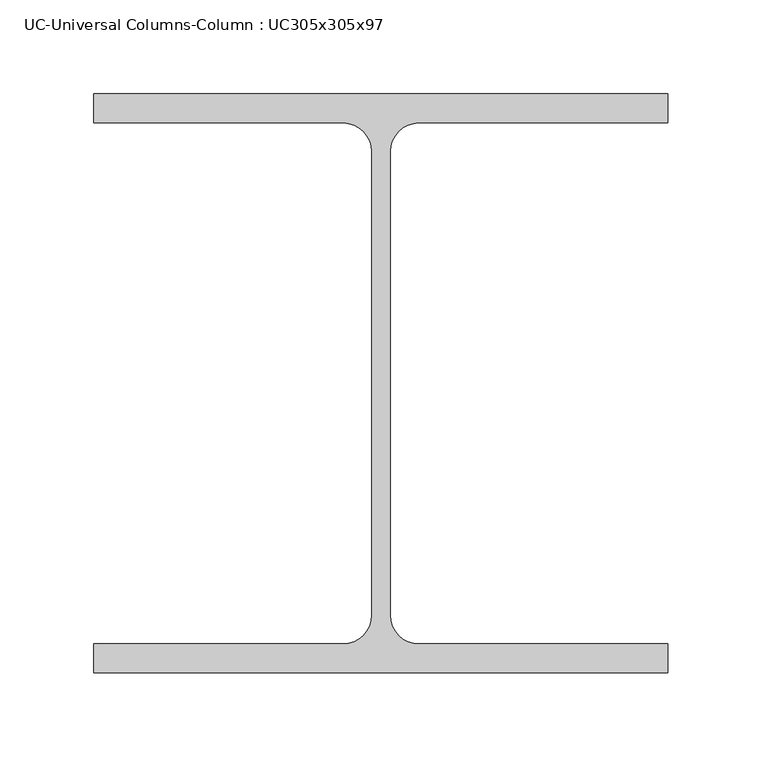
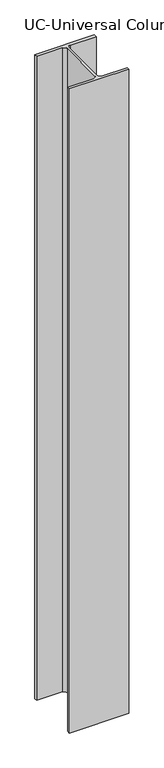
"""IFC4 building model written with IfcOpenShell, lengths in millimetres: column geometry, UC-Universal Columns-Column : UC305x305x97."""

import ifcopenshell
import ifcopenshell.guid

model = None  # the IFC model being written
_history = None  # IfcOwnerHistory: only IFC2X3 demands one
_inside = {}  # id of a spatial element -> (the spatial element, [elements in it])
_under = {}  # id of a project, library or spatial element -> (it, [spatial elements below it])
_declared = {}  # id of a project -> (the project, [libraries it declares])
_typed = {}  # id of a type object -> (the type object, [elements of that type])
_made_of = {}  # id of a material, layer set ... -> (it, [elements and type objects made of it])


def new_model(schema):
    """Start an empty IFC model of exactly this schema.

    Asked for "IFC4X3", IfcOpenShell would pick the latest addendum, in which some entities
    have other attributes; the version numbers below select the first issue.
    IFC2X3 requires an IfcOwnerHistory on every rooted entity: one is made here for all.
    """
    global model, _history
    if schema == "IFC4X3":
        model = ifcopenshell.file(schema_version=(4, 3, 0, 0))
    else:
        model = ifcopenshell.file(schema=schema)
    _inside.clear()
    _under.clear()
    _declared.clear()
    _typed.clear()
    _made_of.clear()
    _history = None
    if model.schema == "IFC2X3":
        org = make("IfcOrganization", Name="unknown")
        user = make(
            "IfcPersonAndOrganization",
            ThePerson=make("IfcPerson", FamilyName="unknown"),
            TheOrganization=org,
        )
        app = make(
            "IfcApplication",
            ApplicationDeveloper=org,
            Version="unknown",
            ApplicationFullName="unknown",
            ApplicationIdentifier="unknown",
        )
        _history = make(
            "IfcOwnerHistory",
            OwningUser=user,
            OwningApplication=app,
            ChangeAction="ADDED",
            CreationDate=0,
        )
    return model


def make(cls, **values):
    """One entity of the class cls with the attributes given. An attribute that is None is left unset."""
    return model.create_entity(
        cls, **{name: value for name, value in values.items() if value is not None}
    )


def rooted(cls, **values):
    """An entity with a GlobalId (a new one), such as an element, a storey or a relation."""
    return make(cls, GlobalId=ifcopenshell.guid.new(), OwnerHistory=_history, **values)


def si_unit(unit_type, name, prefix=None):
    """IfcSIUnit, for example si_unit("LENGTHUNIT", "METRE", prefix="MILLI")."""
    return make("IfcSIUnit", UnitType=unit_type, Prefix=prefix, Name=name)


def assignment(units):
    """IfcUnitAssignment: the units of a project."""
    return None if units is None else make("IfcUnitAssignment", Units=units)


def point(xyz):
    """IfcCartesianPoint."""
    return None if xyz is None else make("IfcCartesianPoint", Coordinates=xyz)


def direction(xyz):
    """IfcDirection."""
    return None if xyz is None else make("IfcDirection", DirectionRatios=xyz)


def frame(location, z_axis=None, x_axis=None):
    """IfcAxis2Placement3D, a coordinate frame: its origin and axes. An axis left out is left unset."""
    return make(
        "IfcAxis2Placement3D",
        Location=point(location),
        Axis=direction(z_axis),
        RefDirection=direction(x_axis),
    )


def frame_2d(location, x_axis=None):
    """IfcAxis2Placement2D, a coordinate frame in the plane: its origin and x axis."""
    return make(
        "IfcAxis2Placement2D", Location=point(location), RefDirection=direction(x_axis)
    )


def origin():
    """The frame at (0, 0, 0) with its axes left unset."""
    return frame((0.0, 0.0, 0.0))


def place(relative_to, where):
    """IfcLocalPlacement: puts the frame where relative to a parent placement (None: the world)."""
    return make(
        "IfcLocalPlacement", PlacementRelTo=relative_to, RelativePlacement=where
    )


def context(
    kind, dimensions, precision=None, world=None, true_north=None, identifier=None
):
    """IfcGeometricRepresentationContext, for example the 3D "Model" context."""
    return make(
        "IfcGeometricRepresentationContext",
        ContextIdentifier=identifier,
        ContextType=kind,
        CoordinateSpaceDimension=dimensions,
        Precision=precision,
        WorldCoordinateSystem=world,
        TrueNorth=true_north,
    )


def project(units=None, contexts=None):
    """IfcProject with its units and contexts."""
    return rooted(
        "IfcProject",
        Name="project",
        RepresentationContexts=contexts,
        UnitsInContext=assignment(units),
    )


def spatial(cls, under=None, at=None, **own):
    """A site, building, storey or space (cls), placed at a placement, below another one or the project."""
    s = rooted(cls, ObjectPlacement=at, **own)
    if under is not None:
        _under.setdefault(under.id(), (under, []))[1].append(s)
    return s


def polyline(points):
    """IfcPolyline through the points."""
    return make("IfcPolyline", Points=[point(p) for p in points])


def circle_curve(where, radius):
    """IfcCircle in the frame where."""
    return make("IfcCircle", Position=where, Radius=radius)


def trimmed(basis, trim1, trim2, sense, master):
    """IfcTrimmedCurve: the piece of a basis curve between two trims."""
    return make(
        "IfcTrimmedCurve",
        BasisCurve=basis,
        Trim1=trim1,
        Trim2=trim2,
        SenseAgreement=sense,
        MasterRepresentation=master,
    )


def segment(curve, same_sense, transition):
    """IfcCompositeCurveSegment."""
    return make(
        "IfcCompositeCurveSegment",
        Transition=transition,
        SameSense=same_sense,
        ParentCurve=curve,
    )


def composite_curve(segments, self_intersect=None):
    """IfcCompositeCurve: segments joined end to end."""
    return make("IfcCompositeCurve", Segments=segments, SelfIntersect=self_intersect)


def outline(outer, holes=None, kind="AREA"):
    """IfcArbitraryClosedProfileDef: a profile drawn as a closed curve; with holes, ...WithVoids."""
    if holes is None:
        return make("IfcArbitraryClosedProfileDef", ProfileType=kind, OuterCurve=outer)
    return make(
        "IfcArbitraryProfileDefWithVoids",
        ProfileType=kind,
        OuterCurve=outer,
        InnerCurves=holes,
    )


def extrude(swept, where, along, depth):
    """IfcExtrudedAreaSolid: the profile swept, set in the frame where, extruded along a direction by depth."""
    return make(
        "IfcExtrudedAreaSolid",
        SweptArea=swept,
        Position=where,
        ExtrudedDirection=direction(along),
        Depth=depth,
    )


def shape(context_of_items, identifier, shape_type, items):
    """IfcShapeRepresentation: the items that make up one representation, for example the "Body"."""
    return make(
        "IfcShapeRepresentation",
        ContextOfItems=context_of_items,
        RepresentationIdentifier=identifier,
        RepresentationType=shape_type,
        Items=items,
    )


def source(mapping_origin, context_of_items, identifier, shape_type, items):
    """IfcRepresentationMap: a shape defined once, which mapped items show again and again."""
    return make(
        "IfcRepresentationMap",
        MappingOrigin=mapping_origin,
        MappedRepresentation=shape(context_of_items, identifier, shape_type, items),
    )


def transform(
    local_origin,
    x_axis=None,
    y_axis=None,
    z_axis=None,
    scale=None,
    scale2=None,
    scale3=None,
    uniform=True,
):
    """IfcCartesianTransformationOperator3D, or its non-uniform kind. x_axis, y_axis, z_axis: its Axis1, 2, 3."""
    if uniform:
        return make(
            "IfcCartesianTransformationOperator3D",
            Axis1=direction(x_axis),
            Axis2=direction(y_axis),
            LocalOrigin=point(local_origin),
            Scale=scale,
            Axis3=direction(z_axis),
        )
    return make(
        "IfcCartesianTransformationOperator3DnonUniform",
        Axis1=direction(x_axis),
        Axis2=direction(y_axis),
        LocalOrigin=point(local_origin),
        Scale=scale,
        Axis3=direction(z_axis),
        Scale2=scale2,
        Scale3=scale3,
    )


def mapped(mapping_source, mapping_target):
    """IfcMappedItem: shows the shape of a source again, moved by a transform."""
    return make(
        "IfcMappedItem", MappingSource=mapping_source, MappingTarget=mapping_target
    )


def made_of(thing, what):
    """Note that an element or type object is made of a material, layer set ...; save() writes the relation."""
    if what is not None:
        _made_of.setdefault(what.id(), (what, []))[1].append(thing)
    return thing


def element(
    cls,
    number,
    at=None,
    inside=None,
    cuts=None,
    type_object=None,
    material=None,
    context=None,
    identifier="Body",
    shape_type=None,
    held_by="IfcProductDefinitionShape",
    body=None,
    shapes=None,
    **own,
):
    """One element of the class cls, such as IfcWall. Its Tag is "e" and its number.

    at: its placement. inside: the storey or other place that contains it. cuts: it is an
    opening in that element (IfcRelVoidsElement). A single representation is given by context,
    identifier, shape_type and body (its items); several are given by shapes. held_by: the class
    of the entity that holds the representations. save() writes the other relations.
    """
    e = rooted(cls, Tag="e%d" % number, ObjectPlacement=at, **own)
    if body is not None:
        shapes = [shape(context, identifier, shape_type, body)]
    if shapes is not None:
        e.Representation = make(held_by, Representations=shapes)
    if inside is not None:
        _inside.setdefault(inside.id(), (inside, []))[1].append(e)
    if cuts is not None:
        rooted(
            "IfcRelVoidsElement", RelatingBuildingElement=cuts, RelatedOpeningElement=e
        )
    if type_object is not None:
        _typed.setdefault(type_object.id(), (type_object, []))[1].append(e)
    return made_of(e, material)


def aggregate(whole, parts):
    """IfcRelAggregates: a whole, such as a stair, and the parts it consists of."""
    return rooted("IfcRelAggregates", RelatingObject=whole, RelatedObjects=parts)


def save(model, path):
    """Write the relations noted so far, then the file.

    IfcRelAggregates (storeys below a building ...), IfcRelContainedInSpatialStructure (elements
    in a storey), IfcRelDefinesByType, IfcRelAssociatesMaterial and IfcRelDeclares: one each for
    every whole, place, type object, material and project.
    """
    for whole, parts in _under.values():
        aggregate(whole, parts)
    for where, things in _inside.values():
        rooted(
            "IfcRelContainedInSpatialStructure",
            RelatedElements=things,
            RelatingStructure=where,
        )
    for kind, things in _typed.values():
        rooted("IfcRelDefinesByType", RelatedObjects=things, RelatingType=kind)
    for what, things in _made_of.values():
        rooted("IfcRelAssociatesMaterial", RelatedObjects=things, RelatingMaterial=what)
    for by, libraries in _declared.values():
        rooted("IfcRelDeclares", RelatingContext=by, RelatedDefinitions=libraries)
    model.write(path)


def uc_universal_columns_column_uc305x305x97_0b574c11(model_context):
    return source(origin(), model_context, "Body", "SweptSolid", [
        extrude(outline(composite_curve([segment(polyline([(152.65, 153.95), (152.65, 138.55), (20.15, 138.55)]), True, "CONTINUOUS"), segment(trimmed(circle_curve(frame_2d((20.15, 123.35)), 15.2), [point((20.15, 138.55))], [point((4.95, 123.35))], True, "CARTESIAN"), True, "CONTINUOUS"), segment(polyline([(4.95, 123.35), (4.95, -123.35)]), True, "CONTINUOUS"), segment(trimmed(circle_curve(frame_2d((20.15, -123.35)), 15.2), [point((4.95, -123.35))], [point((20.15, -138.55))], True, "CARTESIAN"), True, "CONTINUOUS"), segment(polyline([(20.15, -138.55), (152.65, -138.55), (152.65, -153.95), (-152.65, -153.95), (-152.65, -138.55), (-20.15, -138.55)]), True, "CONTINUOUS"), segment(trimmed(circle_curve(frame_2d((-20.15, -123.35)), 15.2), [point((-20.15, -138.55))], [point((-4.95, -123.35))], True, "CARTESIAN"), True, "CONTINUOUS"), segment(polyline([(-4.95, -123.35), (-4.95, 123.35)]), True, "CONTINUOUS"), segment(trimmed(circle_curve(frame_2d((-20.15, 123.35)), 15.2), [point((-4.95, 123.35))], [point((-20.15, 138.55))], True, "CARTESIAN"), True, "CONTINUOUS"), segment(polyline([(-20.15, 138.55), (-152.65, 138.55), (-152.65, 153.95), (152.65, 153.95)]), True, "CONTINUOUS")], self_intersect=False)), frame((0.0, 0.0, 11500.0), z_axis=(0.0, 0.0, 1.0), x_axis=(1.0, 0.0, 0.0)), (0.0, 0.0, 1.0), 3500.0),
    ])


if __name__ == "__main__":
    model = new_model("IFC4")
    model_context = context("Model", 3, world=origin())
    ifc_project = project(units=[si_unit("LENGTHUNIT", "METRE", prefix="MILLI")], contexts=[model_context])
    site = spatial("IfcSite", under=ifc_project)
    building = spatial("IfcBuilding", under=site)
    placement = place(None, origin())
    uc_universal_columns_column_uc305x305x97_shape = uc_universal_columns_column_uc305x305x97_0b574c11(model_context)
    element("IfcColumn", 1, ObjectType="UC-Universal Columns-Column : UC305x305x97", at=placement, inside=building, context=model_context, shape_type="MappedRepresentation", body=[
        mapped(uc_universal_columns_column_uc305x305x97_shape, transform((0.0, 0.0, 0.0), x_axis=(1.0, 0.0, 0.0), y_axis=(0.0, 1.0, 0.0), z_axis=(0.0, 0.0, 1.0))),
    ])
    save(model, "model.ifc")
